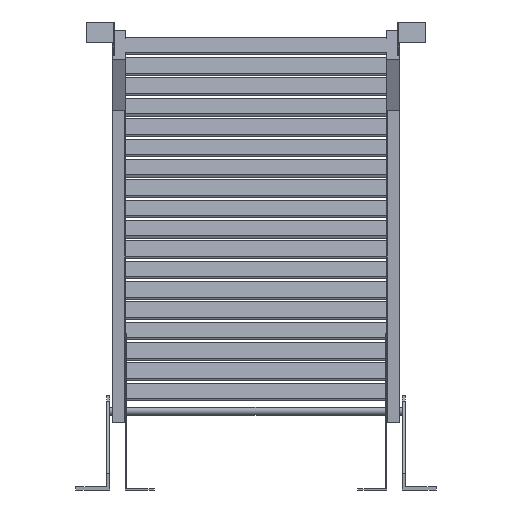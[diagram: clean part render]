
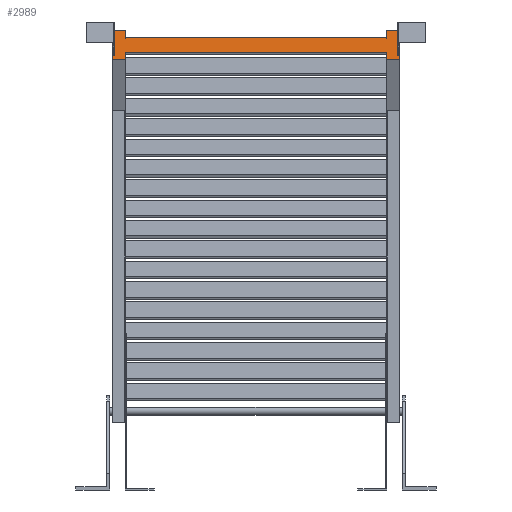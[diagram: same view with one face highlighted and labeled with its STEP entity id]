
A CAD part, front view. The second image highlights one B-rep face of the part: STEP entity #2989.
In plain terms, the highlighted planar face has unit normal (0, -0.99, 0.139).
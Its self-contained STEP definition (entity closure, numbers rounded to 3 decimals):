
#1903=DIRECTION('',(0.,0.139,0.99));
#1904=VECTOR('',#1903,13.5);
#1905=CARTESIAN_POINT('',(-250.,-4613.825,866.74));
#1906=LINE('',#1905,#1904);
#1907=DIRECTION('',(0.,-0.139,-0.99));
#1908=VECTOR('',#1907,13.5);
#1909=CARTESIAN_POINT('',(250.,-4611.946,880.109));
#1910=LINE('',#1909,#1908);
#1911=DIRECTION('',(-1.,0.,0.));
#1912=VECTOR('',#1911,25.);
#1913=CARTESIAN_POINT('',(275.,-4611.946,880.109));
#1914=LINE('',#1913,#1912);
#1915=DIRECTION('',(0.,0.139,0.99));
#1916=VECTOR('',#1915,57.);
#1917=CARTESIAN_POINT('',(275.,-4619.879,823.664));
#1918=LINE('',#1917,#1916);
#1919=DIRECTION('',(1.,0.,0.));
#1920=VECTOR('',#1919,25.);
#1921=CARTESIAN_POINT('',(250.,-4619.879,823.664));
#1922=LINE('',#1921,#1920);
#1923=DIRECTION('',(0.,-0.139,-0.99));
#1924=VECTOR('',#1923,13.5);
#1925=CARTESIAN_POINT('',(250.,-4618.,837.032));
#1926=LINE('',#1925,#1924);
#1927=DIRECTION('',(0.,0.139,0.99));
#1928=VECTOR('',#1927,13.5);
#1929=CARTESIAN_POINT('',(-250.,-4619.879,823.664));
#1930=LINE('',#1929,#1928);
#1931=DIRECTION('',(1.,0.,0.));
#1932=VECTOR('',#1931,25.);
#1933=CARTESIAN_POINT('',(-275.,-4619.879,823.664));
#1934=LINE('',#1933,#1932);
#1935=DIRECTION('',(0.,-0.139,-0.99));
#1936=VECTOR('',#1935,57.);
#1937=CARTESIAN_POINT('',(-275.,-4611.946,880.109));
#1938=LINE('',#1937,#1936);
#1939=DIRECTION('',(-1.,0.,0.));
#1940=VECTOR('',#1939,25.);
#1941=CARTESIAN_POINT('',(-250.,-4611.946,880.109));
#1942=LINE('',#1941,#1940);
#1943=DIRECTION('',(1.,0.,0.));
#1944=VECTOR('',#1943,2.);
#1945=CARTESIAN_POINT('',(-273.,-4618.696,832.081));
#1946=LINE('',#1945,#1944);
#1947=DIRECTION('',(0.,0.139,0.99));
#1948=VECTOR('',#1947,40.);
#1949=CARTESIAN_POINT('',(-271.,-4618.696,832.081));
#1950=LINE('',#1949,#1948);
#1951=DIRECTION('',(1.,0.,0.));
#1952=VECTOR('',#1951,2.);
#1953=CARTESIAN_POINT('',(-273.,-4613.129,871.692));
#1954=LINE('',#1953,#1952);
#1955=DIRECTION('',(0.,0.139,0.99));
#1956=VECTOR('',#1955,40.);
#1957=CARTESIAN_POINT('',(-273.,-4618.696,832.081));
#1958=LINE('',#1957,#1956);
#1959=DIRECTION('',(1.,0.,0.));
#1960=VECTOR('',#1959,2.);
#1961=CARTESIAN_POINT('',(271.,-4618.696,832.081));
#1962=LINE('',#1961,#1960);
#1963=DIRECTION('',(0.,0.139,0.99));
#1964=VECTOR('',#1963,40.);
#1965=CARTESIAN_POINT('',(273.,-4618.696,832.081));
#1966=LINE('',#1965,#1964);
#1967=DIRECTION('',(1.,0.,0.));
#1968=VECTOR('',#1967,2.);
#1969=CARTESIAN_POINT('',(271.,-4613.129,871.692));
#1970=LINE('',#1969,#1968);
#1971=DIRECTION('',(0.,0.139,0.99));
#1972=VECTOR('',#1971,40.);
#1973=CARTESIAN_POINT('',(271.,-4618.696,832.081));
#1974=LINE('',#1973,#1972);
#2547=DIRECTION('',(1.,0.,0.));
#2548=VECTOR('',#2547,500.);
#2549=CARTESIAN_POINT('',(-250.,-4613.825,866.74));
#2550=LINE('',#2549,#2548);
#2551=DIRECTION('',(1.,0.,0.));
#2552=VECTOR('',#2551,500.);
#2553=CARTESIAN_POINT('',(-250.,-4618.,837.032));
#2554=LINE('',#2553,#2552);
#2667=CARTESIAN_POINT('',(-250.,-4611.946,880.109));
#2668=CARTESIAN_POINT('',(-275.,-4611.946,880.109));
#2669=VERTEX_POINT('',#2667);
#2670=VERTEX_POINT('',#2668);
#2671=CARTESIAN_POINT('',(-275.,-4619.879,823.664));
#2672=CARTESIAN_POINT('',(-250.,-4619.879,823.664));
#2673=VERTEX_POINT('',#2671);
#2674=VERTEX_POINT('',#2672);
#2675=CARTESIAN_POINT('',(275.,-4619.879,823.664));
#2676=CARTESIAN_POINT('',(275.,-4611.946,880.109));
#2677=VERTEX_POINT('',#2675);
#2678=VERTEX_POINT('',#2676);
#2679=CARTESIAN_POINT('',(250.,-4619.879,823.664));
#2680=VERTEX_POINT('',#2679);
#2681=CARTESIAN_POINT('',(250.,-4611.946,880.109));
#2682=VERTEX_POINT('',#2681);
#2811=CARTESIAN_POINT('',(-250.,-4618.,837.032));
#2813=VERTEX_POINT('',#2811);
#2815=CARTESIAN_POINT('',(-250.,-4613.825,866.74));
#2817=VERTEX_POINT('',#2815);
#2819=CARTESIAN_POINT('',(250.,-4618.,837.032));
#2821=VERTEX_POINT('',#2819);
#2823=CARTESIAN_POINT('',(250.,-4613.825,866.74));
#2825=VERTEX_POINT('',#2823);
#2891=CARTESIAN_POINT('',(-273.,-4618.696,832.081));
#2892=CARTESIAN_POINT('',(-271.,-4618.696,832.081));
#2893=VERTEX_POINT('',#2891);
#2894=VERTEX_POINT('',#2892);
#2895=CARTESIAN_POINT('',(-273.,-4613.129,871.692));
#2896=CARTESIAN_POINT('',(-271.,-4613.129,871.692));
#2897=VERTEX_POINT('',#2895);
#2898=VERTEX_POINT('',#2896);
#2915=CARTESIAN_POINT('',(271.,-4618.696,832.081));
#2916=CARTESIAN_POINT('',(273.,-4618.696,832.081));
#2917=VERTEX_POINT('',#2915);
#2918=VERTEX_POINT('',#2916);
#2919=CARTESIAN_POINT('',(271.,-4613.129,871.692));
#2920=CARTESIAN_POINT('',(273.,-4613.129,871.692));
#2921=VERTEX_POINT('',#2919);
#2922=VERTEX_POINT('',#2920);
#2939=CARTESIAN_POINT('',(0.,-4643.912,652.659));
#2940=DIRECTION('',(0.,0.99,-0.139));
#2941=DIRECTION('',(1.,0.,0.));
#2942=AXIS2_PLACEMENT_3D('',#2939,#2940,#2941);
#2943=PLANE('',#2942);
#2945=ORIENTED_EDGE('',*,*,#2944,.F.);
#2947=ORIENTED_EDGE('',*,*,#2946,.T.);
#2949=ORIENTED_EDGE('',*,*,#2948,.F.);
#2951=ORIENTED_EDGE('',*,*,#2950,.F.);
#2953=ORIENTED_EDGE('',*,*,#2952,.F.);
#2955=ORIENTED_EDGE('',*,*,#2954,.F.);
#2957=ORIENTED_EDGE('',*,*,#2956,.F.);
#2959=ORIENTED_EDGE('',*,*,#2958,.F.);
#2961=ORIENTED_EDGE('',*,*,#2960,.F.);
#2963=ORIENTED_EDGE('',*,*,#2962,.F.);
#2965=ORIENTED_EDGE('',*,*,#2964,.F.);
#2967=ORIENTED_EDGE('',*,*,#2966,.F.);
#2968=EDGE_LOOP('',(#2945,#2947,#2949,#2951,#2953,#2955,#2957,#2959,#2961,#2963,
#2965,#2967));
#2969=FACE_OUTER_BOUND('',#2968,.F.);
#2971=ORIENTED_EDGE('',*,*,#2970,.T.);
#2972=ORIENTED_EDGE('',*,*,#2928,.T.);
#2974=ORIENTED_EDGE('',*,*,#2973,.F.);
#2976=ORIENTED_EDGE('',*,*,#2975,.F.);
#2977=EDGE_LOOP('',(#2971,#2972,#2974,#2976));
#2978=FACE_BOUND('',#2977,.F.);
#2980=ORIENTED_EDGE('',*,*,#2979,.T.);
#2982=ORIENTED_EDGE('',*,*,#2981,.T.);
#2984=ORIENTED_EDGE('',*,*,#2983,.F.);
#2986=ORIENTED_EDGE('',*,*,#2985,.F.);
#2987=EDGE_LOOP('',(#2980,#2982,#2984,#2986));
#2988=FACE_BOUND('',#2987,.F.);
#2928=EDGE_CURVE('',#2894,#2898,#1950,.T.);
#2944=EDGE_CURVE('',#2817,#2669,#1906,.T.);
#2946=EDGE_CURVE('',#2817,#2825,#2550,.T.);
#2948=EDGE_CURVE('',#2682,#2825,#1910,.T.);
#2950=EDGE_CURVE('',#2678,#2682,#1914,.T.);
#2952=EDGE_CURVE('',#2677,#2678,#1918,.T.);
#2954=EDGE_CURVE('',#2680,#2677,#1922,.T.);
#2956=EDGE_CURVE('',#2821,#2680,#1926,.T.);
#2958=EDGE_CURVE('',#2813,#2821,#2554,.T.);
#2960=EDGE_CURVE('',#2674,#2813,#1930,.T.);
#2962=EDGE_CURVE('',#2673,#2674,#1934,.T.);
#2964=EDGE_CURVE('',#2670,#2673,#1938,.T.);
#2966=EDGE_CURVE('',#2669,#2670,#1942,.T.);
#2970=EDGE_CURVE('',#2893,#2894,#1946,.T.);
#2973=EDGE_CURVE('',#2897,#2898,#1954,.T.);
#2975=EDGE_CURVE('',#2893,#2897,#1958,.T.);
#2979=EDGE_CURVE('',#2917,#2918,#1962,.T.);
#2981=EDGE_CURVE('',#2918,#2922,#1966,.T.);
#2983=EDGE_CURVE('',#2921,#2922,#1970,.T.);
#2985=EDGE_CURVE('',#2917,#2921,#1974,.T.);
#2989=ADVANCED_FACE('',(#2969,#2978,#2988),#2943,.F.);
